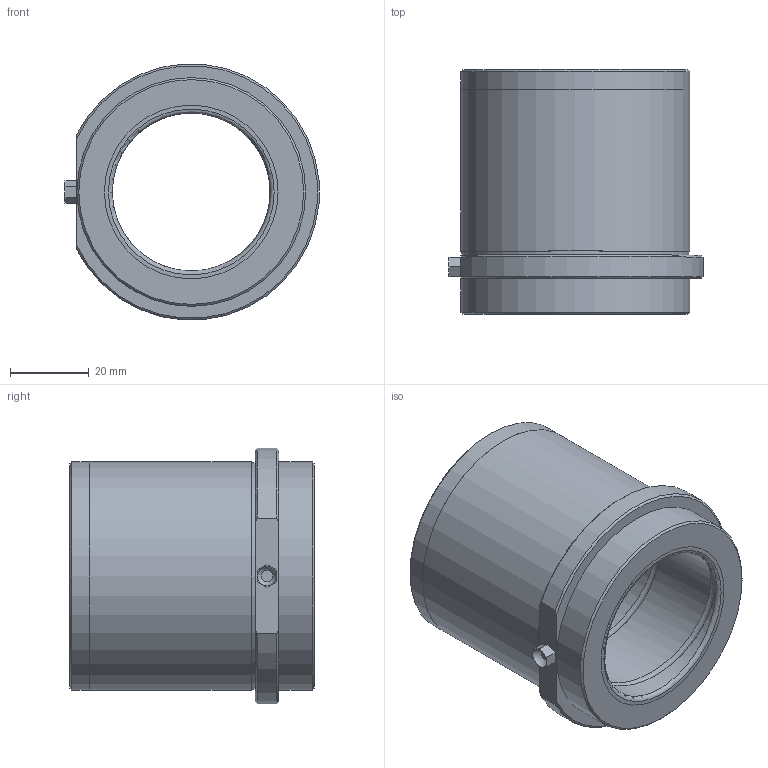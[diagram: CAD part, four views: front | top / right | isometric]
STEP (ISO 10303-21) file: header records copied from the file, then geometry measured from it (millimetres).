
FILE_DESCRIPTION( ( 'STEP AP203' ), '1' );
FILE_NAME( 'C:/Documents and Settings/EXPER/Desktop/Cuma/24 03 2009/D26/D26_40X47.step', '2003-01-02T03:33:39', ( ' ' ), ( ' ' ), 'XStep 1.0', ' ', ' ' );
FILE_SCHEMA( ( 'CONFIG_CONTROL_DESIGN' ) );
Length unit declared in the file: metre
Products named in the file (3): 1; 2; 3
Bounding box: 64.38 x 62 x 64.85 mm (x, y, z)
Volume: 89176.3 mm3; surface area: 40072.3 mm2
Topology: 3 solids, 3 shells, 49 faces, 105 edges, 67 vertices
Faces by surface type: plane 24, cylinder 10, cone 7, torus 6, sphere 1, bspline 1
Full cylindrical faces by diameter (mm): 4 x2, 42 x2, 57.5 x1, 57.98 x2, 58 x1
Entity records: 3261 total; most frequent: CARTESIAN_POINT 2172, DIRECTION 206, ORIENTED_EDGE 154, AXIS2_PLACEMENT_3D 89, EDGE_LOOP 82, EDGE_CURVE 77, FACE_OUTER_BOUND 63, VERTEX_POINT 59
